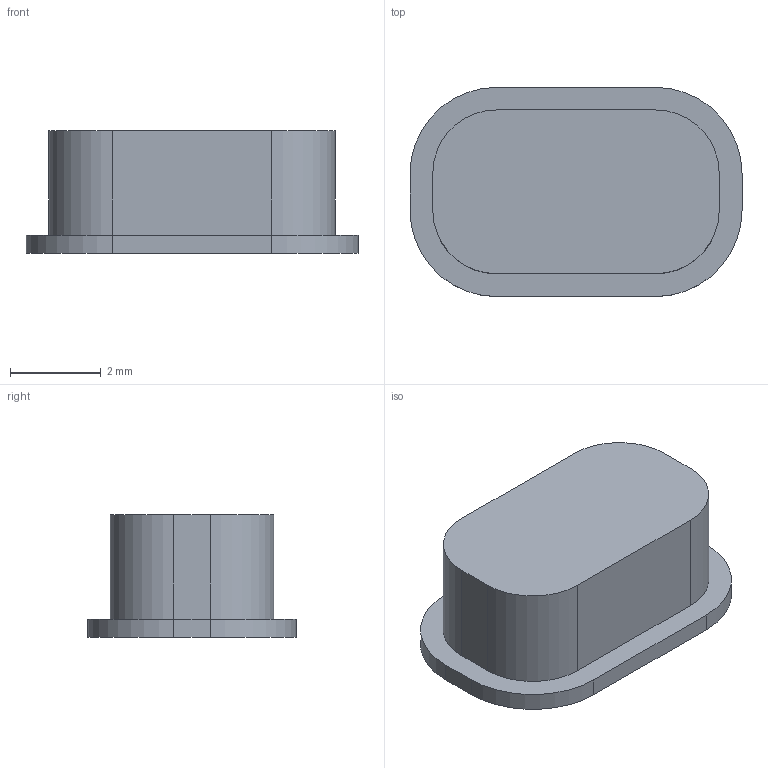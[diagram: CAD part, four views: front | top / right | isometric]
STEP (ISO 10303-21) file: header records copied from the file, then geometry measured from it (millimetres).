
FILE_DESCRIPTION(('Open CASCADE Model'),'2;1');
FILE_NAME('Role diffuser, short','2026-11-11T17:10:57',('Author'),( 'Open CASCADE'),'Open CASCADE STEP processor 7.8','build123d', 'Unknown');
FILE_SCHEMA(('AUTOMOTIVE_DESIGN { 1 0 10303 214 1 1 1 1 }'));
Length unit declared in the file: millimetre
Products named in the file (1): Role diffuser, short
Bounding box: 7.3 x 4.6 x 2.7 mm (x, y, z)
Volume: 60.5 mm3; surface area: 109.2 mm2
Topology: 1 solids, 1 shells, 19 faces, 48 edges, 32 vertices
Faces by surface type: plane 11, cylinder 8
Entity records: 1223 total; most frequent: DIRECTION 200, CARTESIAN_POINT 196, LINE 112, VECTOR 112, ORIENTED_EDGE 96, PCURVE 96, DEFINITIONAL_REPRESENTATION 96, EDGE_CURVE 48
